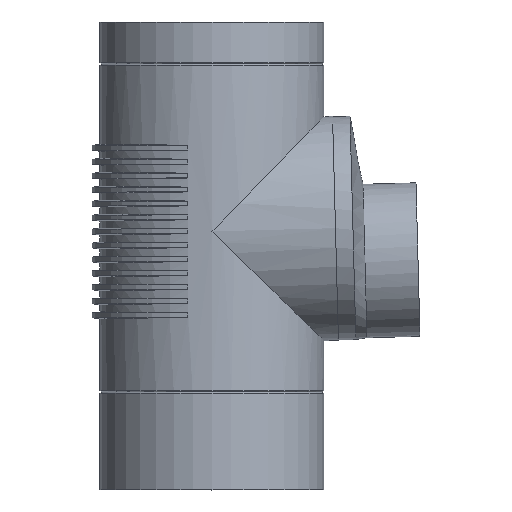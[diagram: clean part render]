
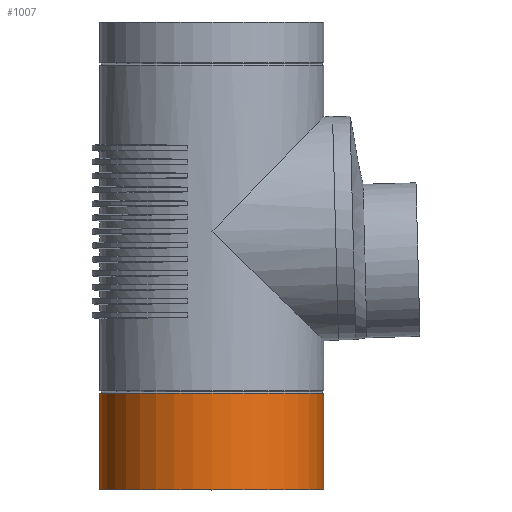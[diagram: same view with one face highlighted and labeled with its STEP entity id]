
A CAD part, top view. The second image highlights one B-rep face of the part: STEP entity #1007.
In plain terms, the highlighted cylindrical face has radius 80.237 mm (diameter 160.475 mm), a full revolution.
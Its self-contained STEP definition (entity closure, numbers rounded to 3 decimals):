
#71=FACE_BOUND($,#296,.T.);
#214=FACE_OUTER_BOUND($,#295,.T.);
#295=EDGE_LOOP($,(#897));
#296=EDGE_LOOP($,(#898));
#346=CIRCLE($,#1097,80.238);
#352=CIRCLE($,#1114,80.238);
#502=VERTEX_POINT($,#2525);
#512=VERTEX_POINT($,#2552);
#636=EDGE_CURVE($,#502,#502,#346,.T.);
#646=EDGE_CURVE($,#512,#512,#352,.T.);
#897=ORIENTED_EDGE($,*,*,#636,.T.);
#898=ORIENTED_EDGE($,*,*,#646,.F.);
#953=CYLINDRICAL_SURFACE($,#1113,80.238);
#1007=ADVANCED_FACE($,(#214,#71),#953,.T.);
#1097=AXIS2_PLACEMENT_3D($,#2526,#1317,#1318);
#1113=AXIS2_PLACEMENT_3D($,#2551,#1349,#1350);
#1114=AXIS2_PLACEMENT_3D($,#2553,#1351,#1352);
#1317=DIRECTION('center_axis',(0.,-1.,0.));
#1318=DIRECTION('ref_axis',(1.,0.,0.));
#1349=DIRECTION('center_axis',(0.,1.,0.));
#1350=DIRECTION('ref_axis',(1.,0.,0.));
#1351=DIRECTION('center_axis',(0.,-1.,0.));
#1352=DIRECTION('ref_axis',(1.,0.,0.));
#2525=CARTESIAN_POINT('',(80.238,69.073,0.));
#2526=CARTESIAN_POINT('Origin',(0.,69.073,0.));
#2551=CARTESIAN_POINT('Origin',(0.,0.,0.));
#2552=CARTESIAN_POINT('',(-80.238,0.,0.));
#2553=CARTESIAN_POINT('Origin',(0.,0.,0.));
